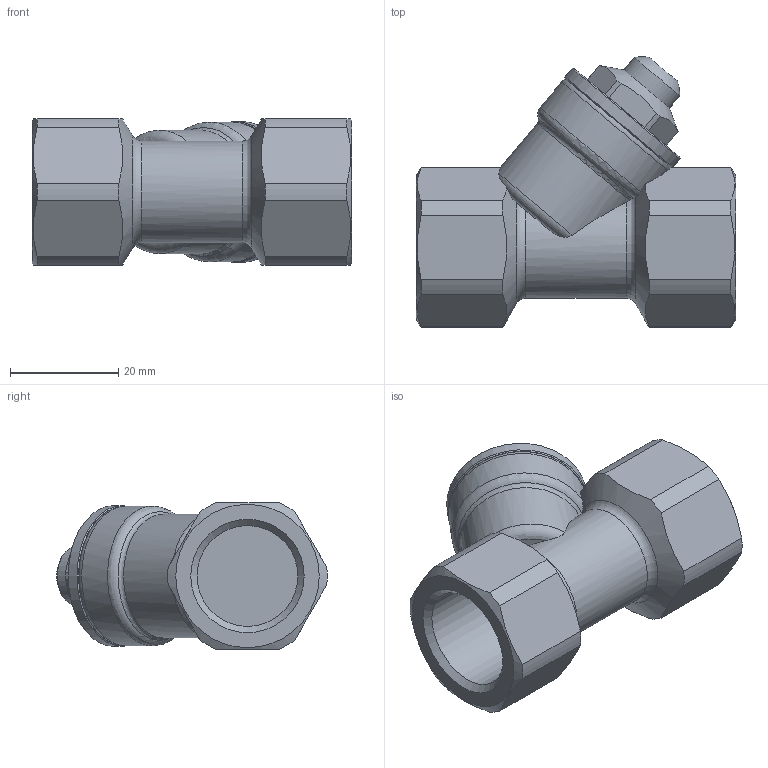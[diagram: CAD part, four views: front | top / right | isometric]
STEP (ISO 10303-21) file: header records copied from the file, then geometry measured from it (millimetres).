
FILE_DESCRIPTION( ( 'STEP AP214' ), '1' );
FILE_NAME( '//expscmdclustefs.cadenas.external/client_exchange/iodir/jobs/output/wkb77130216_no0/STEP/220_03_2_14b.stp', ' ', ( ' ' ), ( ' ' ), 'PSStep 15.0.47', 'PARTsolutions', ' ' );
FILE_SCHEMA( ( 'AUTOMOTIVE_DESIGN { 1 0 10303 214 1 1 1 1 }' ) );
Length unit declared in the file: millimetre
Products named in the file (1): _220.03
Bounding box: 59 x 49.98 x 27 mm (x, y, z)
Volume: 31858.1 mm3; surface area: 9834.7 mm2
Topology: 1 solids, 1 shells, 69 faces, 183 edges, 120 vertices
Faces by surface type: plane 27, cylinder 25, cone 9, torus 7, sphere 1
Full cylindrical faces by diameter (mm): 11 x1, 18.631 x2, 26 x1
Entity records: 3010 total; most frequent: CARTESIAN_POINT 850, ORIENTED_EDGE 332, DIRECTION 318, EDGE_CURVE 166, AXIS2_PLACEMENT_3D 138, VERTEX_POINT 116, EDGE_LOOP 86, FACE_OUTER_BOUND 75
